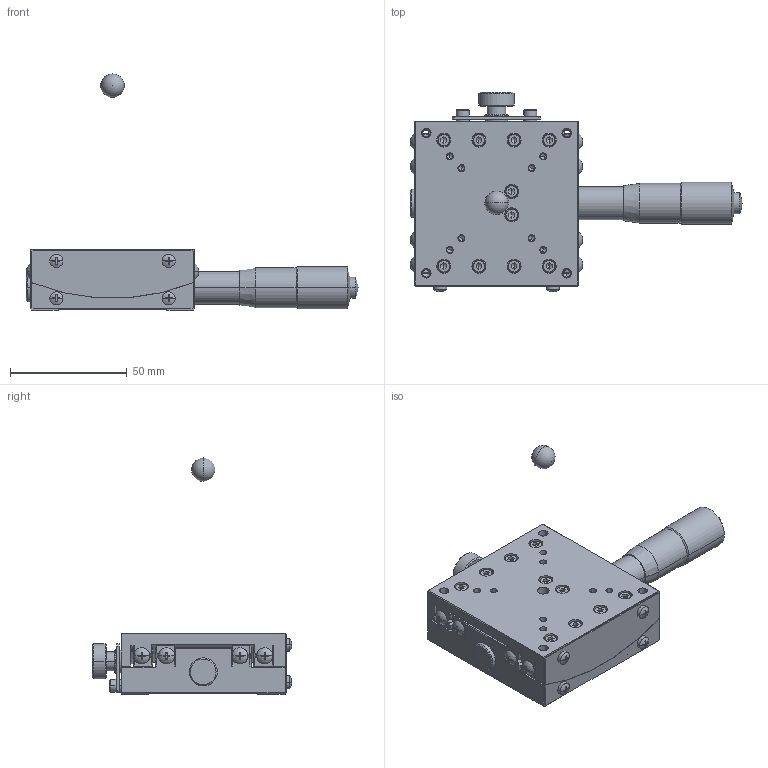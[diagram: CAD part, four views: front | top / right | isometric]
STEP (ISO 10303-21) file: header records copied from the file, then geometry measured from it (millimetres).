
FILE_DESCRIPTION (( 'STEP AP214' ), '1' );
FILE_NAME ('ST07A-C1T.STEP', '2007-01-19T02:19:12', ( ' ' ), ( ' ' ), 'SwSTEP 2.0', 'SolidWorks 2006052', '' );
FILE_SCHEMA (( 'AUTOMOTIVE_DESIGN' ));
Length unit declared in the file: millimetre
Products named in the file (6): 002590-1020(3D); ST07A-C1T-Part-1; 002590-1130(3D); 002590-1011(3D); ST07A-C1T; MICROMETERHEAD(MHN4-25T)spindle
Assembly tree (5 placements, depth 2):
  ST07A-C1T
    002590-1020(3D)
    ST07A-C1T-Part-1
    MICROMETERHEAD(MHN4-25T)spindle
    002590-1130(3D)
    002590-1011(3D)
Bounding box: 142 x 85.39 x 101 mm (x, y, z)
Volume: 124665.2 mm3; surface area: 60480.5 mm2
Topology: 5 solids, 41 shells, 1850 faces, 4317 edges, 2527 vertices
Faces by surface type: plane 766, cylinder 616, cone 436, sphere 32
Entity records: 55430 total; most frequent: CARTESIAN_POINT 13185, DIRECTION 9223, ORIENTED_EDGE 8376, EDGE_CURVE 4188, AXIS2_PLACEMENT_3D 3558, VERTEX_POINT 2524, VECTOR 2107, LINE 2107
